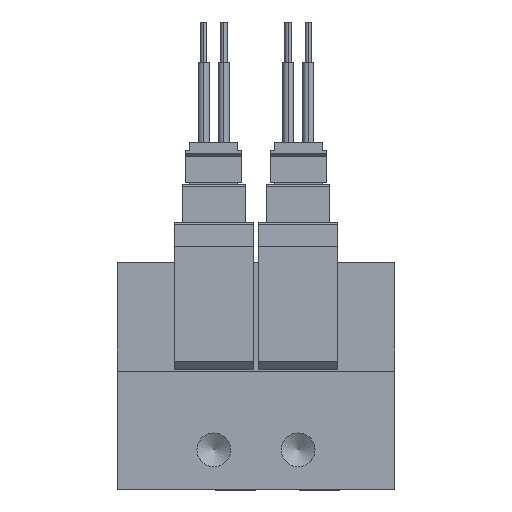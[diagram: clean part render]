
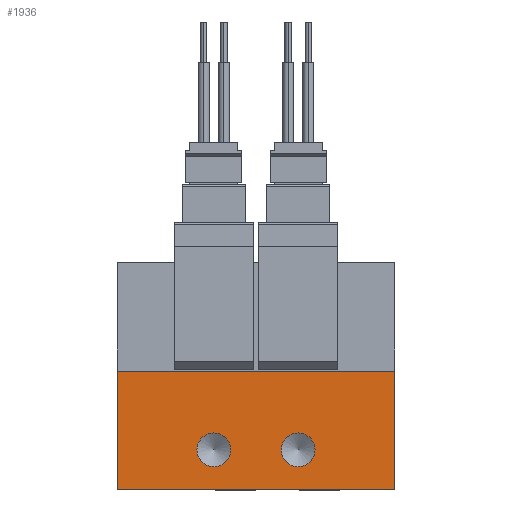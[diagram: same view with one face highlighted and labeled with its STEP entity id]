
A CAD part, front view. The second image highlights one B-rep face of the part: STEP entity #1936.
In plain terms, the highlighted planar face has unit normal (0, -1, 0).
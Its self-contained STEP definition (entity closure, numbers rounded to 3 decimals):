
#1936=ADVANCED_FACE('',(#2986,#2987,#2988),#2989,.F.);
#2986=FACE_BOUND('',#5114,.T.);
#2987=FACE_BOUND('',#5115,.T.);
#2988=FACE_OUTER_BOUND('',#5116,.T.);
#2989=PLANE('',#5117);
#5114=EDGE_LOOP('',(#7886));
#5115=EDGE_LOOP('',(#7887));
#5116=EDGE_LOOP('',(#7888,#7889,#7890,#7891));
#5117=AXIS2_PLACEMENT_3D('',#7892,#7893,#7894);
#7886=ORIENTED_EDGE('',*,*,#16134,.F.);
#7887=ORIENTED_EDGE('',*,*,#16155,.F.);
#7888=ORIENTED_EDGE('',*,*,#16156,.F.);
#7889=ORIENTED_EDGE('',*,*,#16157,.F.);
#7890=ORIENTED_EDGE('',*,*,#16158,.T.);
#7891=ORIENTED_EDGE('',*,*,#16153,.T.);
#7892=CARTESIAN_POINT('',(-34.5,0.,14.8));
#7893=DIRECTION('',(0.0,1.0,0.));
#7894=DIRECTION('',(0.0,0.,1.0));
#16134=EDGE_CURVE('',#18850,#18850,#18851,.T.);
#16153=EDGE_CURVE('',#18885,#18883,#18886,.T.);
#16155=EDGE_CURVE('',#18888,#18888,#18889,.T.);
#16156=EDGE_CURVE('',#18890,#18883,#18891,.T.);
#16157=EDGE_CURVE('',#18892,#18890,#18893,.T.);
#16158=EDGE_CURVE('',#18892,#18885,#18894,.T.);
#18850=VERTEX_POINT('',#23462);
#18851=CIRCLE('',#23463,2.1);
#18883=VERTEX_POINT('',#23508);
#18885=VERTEX_POINT('',#23511);
#18886=LINE('',#23512,#23513);
#18888=VERTEX_POINT('',#23516);
#18889=CIRCLE('',#23517,2.1);
#18890=VERTEX_POINT('',#23518);
#18891=LINE('',#23519,#23520);
#18892=VERTEX_POINT('',#23521);
#18893=LINE('',#23522,#23523);
#18894=LINE('',#23524,#23525);
#23462=CARTESIAN_POINT('',(-22.5,0.,2.9));
#23463=AXIS2_PLACEMENT_3D('',#29923,#29924,#29925);
#23508=CARTESIAN_POINT('',(0.0,0.0,0.0));
#23511=CARTESIAN_POINT('',(-34.5,0.0,0.0));
#23512=CARTESIAN_POINT('',(-34.5,0.0,0.0));
#23513=VECTOR('',#29952,1.0);
#23516=CARTESIAN_POINT('',(-12.0,0.,2.9));
#23517=AXIS2_PLACEMENT_3D('',#29954,#29955,#29956);
#23518=CARTESIAN_POINT('',(0.0,0.,14.8));
#23519=CARTESIAN_POINT('',(0.0,0.,14.8));
#23520=VECTOR('',#29957,1.0);
#23521=CARTESIAN_POINT('',(-34.5,0.,14.8));
#23522=CARTESIAN_POINT('',(-34.5,0.,14.8));
#23523=VECTOR('',#29958,1.0);
#23524=CARTESIAN_POINT('',(-34.5,0.,14.8));
#23525=VECTOR('',#29959,1.0);
#29923=CARTESIAN_POINT('',(-22.5,0.0,5.0));
#29924=DIRECTION('',(0.0,-1.0,0.));
#29925=DIRECTION('',(0.0,0.,-1.0));
#29952=DIRECTION('',(1.0,0.0,0.0));
#29954=CARTESIAN_POINT('',(-12.0,0.0,5.0));
#29955=DIRECTION('',(0.0,-1.0,0.));
#29956=DIRECTION('',(0.0,0.,-1.0));
#29957=DIRECTION('',(0.0,0.,-1.0));
#29958=DIRECTION('',(1.0,0.0,0.0));
#29959=DIRECTION('',(0.0,0.,-1.0));
